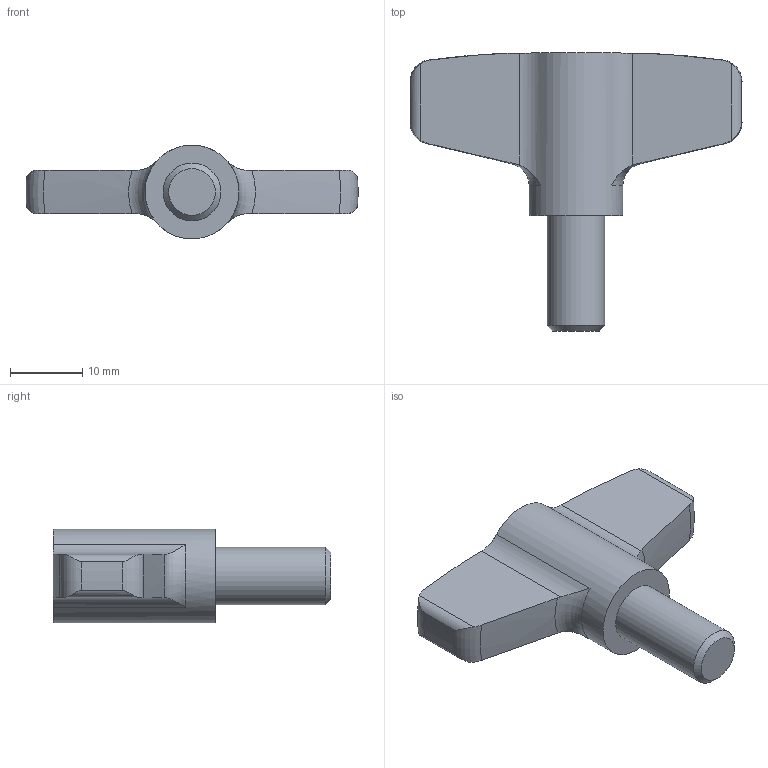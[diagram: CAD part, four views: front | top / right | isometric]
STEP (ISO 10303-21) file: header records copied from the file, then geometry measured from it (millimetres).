
FILE_DESCRIPTION( ( 'STEP AP203' ), '1' );
FILE_NAME( 'C:/Temp/Ganter_Step_05_03_2020/data/2_2/gn_835/Stainless Steel-Wing screw GN 835-46-M8-16-MT.stp', '2020-03-05T12:19:30', ( 'License CC BY-ND 4.0' ), ( 'CADENAS' ), ' ', 'PARTsolutions', ' ' );
FILE_SCHEMA( ( 'CONFIG_CONTROL_DESIGN' ) );
Length unit declared in the file: millimetre
Products named in the file (1): _Stainless Steel-Wing screw GN 835-46-M8-16-MT
Bounding box: 45.98 x 38.5 x 13 mm (x, y, z)
Volume: 6500.9 mm3; surface area: 2765 mm2
Topology: 1 solids, 1 shells, 30 faces, 76 edges, 49 vertices
Faces by surface type: cylinder 12, plane 7, torus 6, cone 3, bspline 2
Full cylindrical faces by diameter (mm): 8 x1, 13 x1
Entity records: 1162 total; most frequent: CARTESIAN_POINT 473, ORIENTED_EDGE 144, DIRECTION 114, EDGE_CURVE 72, AXIS2_PLACEMENT_3D 49, VERTEX_POINT 48, B_SPLINE_CURVE_WITH_KNOTS 36, EDGE_LOOP 34
